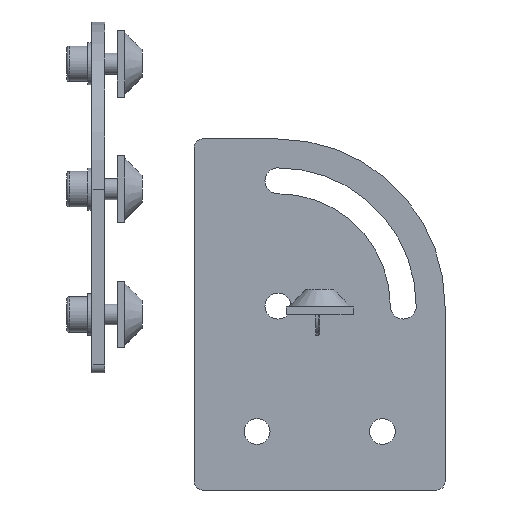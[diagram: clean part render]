
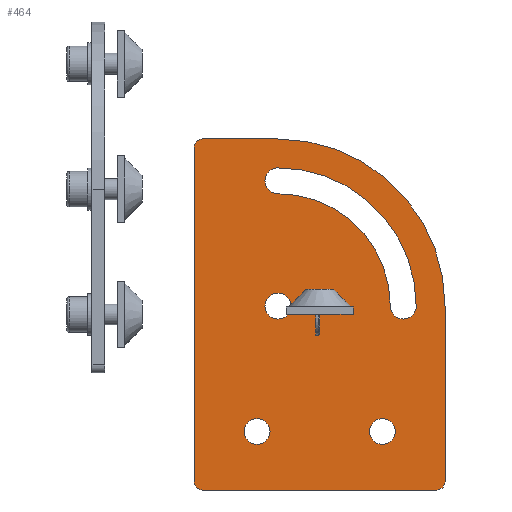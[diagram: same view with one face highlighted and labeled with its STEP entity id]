
A CAD part, front view. The second image highlights one B-rep face of the part: STEP entity #464.
In plain terms, the highlighted planar face has unit normal (0, -1, 0).
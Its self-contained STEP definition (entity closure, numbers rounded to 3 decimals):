
#464 = ADVANCED_FACE( '', ( #700, #701, #702, #703, #704 ), #705, .F. );
#700 = FACE_OUTER_BOUND( '', #820, .T. );
#701 = FACE_BOUND( '', #821, .T. );
#702 = FACE_BOUND( '', #822, .T. );
#703 = FACE_BOUND( '', #823, .T. );
#704 = FACE_BOUND( '', #824, .T. );
#705 = PLANE( '', #825 );
#820 = EDGE_LOOP( '', ( #1013, #1014, #1015, #1016, #1017, #1018, #1019, #1020 ) );
#821 = EDGE_LOOP( '', ( #1021 ) );
#822 = EDGE_LOOP( '', ( #1022 ) );
#823 = EDGE_LOOP( '', ( #1023 ) );
#824 = EDGE_LOOP( '', ( #1024, #1025, #1026, #1027 ) );
#825 = AXIS2_PLACEMENT_3D( '', #1028, #1029, #1030 );
#1013 = ORIENTED_EDGE( '', *, *, #1261, .T. );
#1014 = ORIENTED_EDGE( '', *, *, #1252, .T. );
#1015 = ORIENTED_EDGE( '', *, *, #1259, .T. );
#1016 = ORIENTED_EDGE( '', *, *, #1263, .T. );
#1017 = ORIENTED_EDGE( '', *, *, #1264, .T. );
#1018 = ORIENTED_EDGE( '', *, *, #1265, .T. );
#1019 = ORIENTED_EDGE( '', *, *, #1266, .T. );
#1020 = ORIENTED_EDGE( '', *, *, #1267, .T. );
#1021 = ORIENTED_EDGE( '', *, *, #1268, .F. );
#1022 = ORIENTED_EDGE( '', *, *, #1269, .F. );
#1023 = ORIENTED_EDGE( '', *, *, #1270, .F. );
#1024 = ORIENTED_EDGE( '', *, *, #1254, .T. );
#1025 = ORIENTED_EDGE( '', *, *, #1271, .F. );
#1026 = ORIENTED_EDGE( '', *, *, #1272, .T. );
#1027 = ORIENTED_EDGE( '', *, *, #1257, .F. );
#1028 = CARTESIAN_POINT( '', ( -30., 0., 42. ) );
#1029 = DIRECTION( '', ( 0., 1., 0. ) );
#1030 = DIRECTION( '', ( 0., 0., 1. ) );
#1252 = EDGE_CURVE( '', #1388, #1386, #1389, .F. );
#1254 = EDGE_CURVE( '', #1391, #1392, #1393, .T. );
#1257 = EDGE_CURVE( '', #1391, #1396, #1397, .T. );
#1259 = EDGE_CURVE( '', #1386, #1399, #1400, .T. );
#1261 = EDGE_CURVE( '', #1402, #1388, #1403, .T. );
#1263 = EDGE_CURVE( '', #1399, #1405, #1406, .T. );
#1264 = EDGE_CURVE( '', #1405, #1407, #1408, .T. );
#1265 = EDGE_CURVE( '', #1407, #1409, #1410, .F. );
#1266 = EDGE_CURVE( '', #1409, #1411, #1412, .T. );
#1267 = EDGE_CURVE( '', #1411, #1402, #1413, .F. );
#1268 = EDGE_CURVE( '', #1414, #1414, #1415, .T. );
#1269 = EDGE_CURVE( '', #1416, #1416, #1417, .T. );
#1270 = EDGE_CURVE( '', #1418, #1418, #1419, .T. );
#1271 = EDGE_CURVE( '', #1420, #1392, #1421, .T. );
#1272 = EDGE_CURVE( '', #1420, #1396, #1422, .T. );
#1386 = VERTEX_POINT( '', #1462 );
#1388 = VERTEX_POINT( '', #1465 );
#1389 = CIRCLE( '', #1466, 2. );
#1391 = VERTEX_POINT( '', #1469 );
#1392 = VERTEX_POINT( '', #1470 );
#1393 = CIRCLE( '', #1471, 33.1 );
#1396 = VERTEX_POINT( '', #1476 );
#1397 = CIRCLE( '', #1477, 3.1 );
#1399 = VERTEX_POINT( '', #1480 );
#1400 = LINE( '', #1481, #1482 );
#1402 = VERTEX_POINT( '', #1485 );
#1403 = LINE( '', #1486, #1487 );
#1405 = VERTEX_POINT( '', #1490 );
#1406 = CIRCLE( '', #1491, 40. );
#1407 = VERTEX_POINT( '', #1492 );
#1408 = LINE( '', #1493, #1494 );
#1409 = VERTEX_POINT( '', #1495 );
#1410 = CIRCLE( '', #1496, 2. );
#1411 = VERTEX_POINT( '', #1497 );
#1412 = LINE( '', #1498, #1499 );
#1413 = CIRCLE( '', #1500, 2. );
#1414 = VERTEX_POINT( '', #1501 );
#1415 = CIRCLE( '', #1502, 3.1 );
#1416 = VERTEX_POINT( '', #1503 );
#1417 = CIRCLE( '', #1504, 3.1 );
#1418 = VERTEX_POINT( '', #1505 );
#1419 = CIRCLE( '', #1506, 3.1 );
#1420 = VERTEX_POINT( '', #1507 );
#1421 = CIRCLE( '', #1508, 3.1 );
#1422 = CIRCLE( '', #1509, 26.9 );
#1462 = CARTESIAN_POINT( '', ( 30., 0., -40. ) );
#1465 = CARTESIAN_POINT( '', ( 28., 0., -42. ) );
#1466 = AXIS2_PLACEMENT_3D( '', #1558, #1559, #1560 );
#1469 = CARTESIAN_POINT( '', ( -10., 0., 35.1 ) );
#1470 = CARTESIAN_POINT( '', ( 23.1, 0., 2. ) );
#1471 = AXIS2_PLACEMENT_3D( '', #1562, #1563, #1564 );
#1476 = CARTESIAN_POINT( '', ( -10., 0., 28.9 ) );
#1477 = AXIS2_PLACEMENT_3D( '', #1567, #1568, #1569 );
#1480 = CARTESIAN_POINT( '', ( 30., 0., 2. ) );
#1481 = CARTESIAN_POINT( '', ( 30., 0., -42. ) );
#1482 = VECTOR( '', #1571, 1000. );
#1485 = CARTESIAN_POINT( '', ( -28., 0., -42. ) );
#1486 = CARTESIAN_POINT( '', ( -30., 0., -42. ) );
#1487 = VECTOR( '', #1573, 1000. );
#1490 = CARTESIAN_POINT( '', ( -10., 0., 42. ) );
#1491 = AXIS2_PLACEMENT_3D( '', #1575, #1576, #1577 );
#1492 = CARTESIAN_POINT( '', ( -28., 0., 42. ) );
#1493 = CARTESIAN_POINT( '', ( 30., 0., 42. ) );
#1494 = VECTOR( '', #1578, 1000. );
#1495 = CARTESIAN_POINT( '', ( -30., 0., 40. ) );
#1496 = AXIS2_PLACEMENT_3D( '', #1579, #1580, #1581 );
#1497 = CARTESIAN_POINT( '', ( -30., 0., -40. ) );
#1498 = CARTESIAN_POINT( '', ( -30., 0., 42. ) );
#1499 = VECTOR( '', #1582, 1000. );
#1500 = AXIS2_PLACEMENT_3D( '', #1583, #1584, #1585 );
#1501 = CARTESIAN_POINT( '', ( -11.9, 0., -28. ) );
#1502 = AXIS2_PLACEMENT_3D( '', #1586, #1587, #1588 );
#1503 = CARTESIAN_POINT( '', ( -6.9, 0., 2. ) );
#1504 = AXIS2_PLACEMENT_3D( '', #1589, #1590, #1591 );
#1505 = CARTESIAN_POINT( '', ( 18.1, 0., -28. ) );
#1506 = AXIS2_PLACEMENT_3D( '', #1592, #1593, #1594 );
#1507 = CARTESIAN_POINT( '', ( 16.9, 0., 2. ) );
#1508 = AXIS2_PLACEMENT_3D( '', #1595, #1596, #1597 );
#1509 = AXIS2_PLACEMENT_3D( '', #1598, #1599, #1600 );
#1558 = CARTESIAN_POINT( '', ( 28., 0., -40. ) );
#1559 = DIRECTION( '', ( 0., 1., 0. ) );
#1560 = DIRECTION( '', ( 0., 0., 1. ) );
#1562 = CARTESIAN_POINT( '', ( -10., 0., 2. ) );
#1563 = DIRECTION( '', ( 0., 1., 0. ) );
#1564 = DIRECTION( '', ( -1., 0., 0. ) );
#1567 = CARTESIAN_POINT( '', ( -10., 0., 32. ) );
#1568 = DIRECTION( '', ( 0., -1., 0. ) );
#1569 = DIRECTION( '', ( 1., 0., 0. ) );
#1571 = DIRECTION( '', ( 0., 0., 1. ) );
#1573 = DIRECTION( '', ( 1., 0., 0. ) );
#1575 = CARTESIAN_POINT( '', ( -10., 0., 2. ) );
#1576 = DIRECTION( '', ( 0., -1., 0. ) );
#1577 = DIRECTION( '', ( -1., 0., 0. ) );
#1578 = DIRECTION( '', ( -1., 0., 0. ) );
#1579 = CARTESIAN_POINT( '', ( -28., 0., 40. ) );
#1580 = DIRECTION( '', ( 0., 1., 0. ) );
#1581 = DIRECTION( '', ( 0., 0., 1. ) );
#1582 = DIRECTION( '', ( 0., 0., -1. ) );
#1583 = CARTESIAN_POINT( '', ( -28., 0., -40. ) );
#1584 = DIRECTION( '', ( 0., 1., 0. ) );
#1585 = DIRECTION( '', ( 0., 0., 1. ) );
#1586 = CARTESIAN_POINT( '', ( -15., 0., -28. ) );
#1587 = DIRECTION( '', ( 0., -1., 0. ) );
#1588 = DIRECTION( '', ( 1., 0., 0. ) );
#1589 = CARTESIAN_POINT( '', ( -10., 0., 2. ) );
#1590 = DIRECTION( '', ( 0., -1., 0. ) );
#1591 = DIRECTION( '', ( 1., 0., 0. ) );
#1592 = CARTESIAN_POINT( '', ( 15., 0., -28. ) );
#1593 = DIRECTION( '', ( 0., -1., 0. ) );
#1594 = DIRECTION( '', ( 1., 0., 0. ) );
#1595 = CARTESIAN_POINT( '', ( 20., 0., 2. ) );
#1596 = DIRECTION( '', ( 0., -1., 0. ) );
#1597 = DIRECTION( '', ( 1., 0., 0. ) );
#1598 = CARTESIAN_POINT( '', ( -10., 0., 2. ) );
#1599 = DIRECTION( '', ( 0., -1., 0. ) );
#1600 = DIRECTION( '', ( -1., 0., 0. ) );
